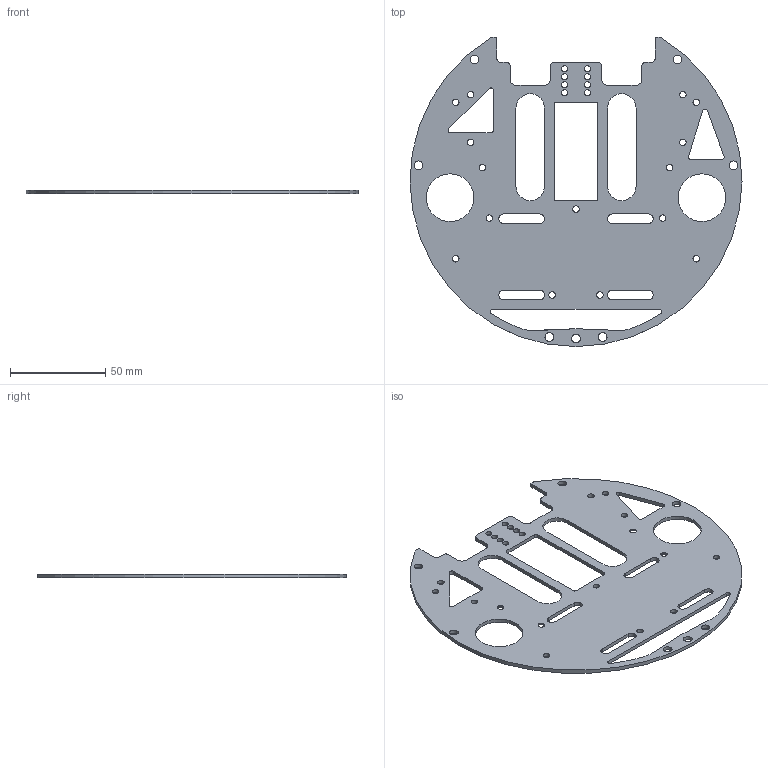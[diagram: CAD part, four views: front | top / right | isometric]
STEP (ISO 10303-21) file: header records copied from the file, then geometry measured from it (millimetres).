
FILE_DESCRIPTION(/* description */ ('carte intermédiaire'),/* implementation_level */ '2;1');
FILE_NAME(/* name */ 'D:\Users\Utilisateur\Desktop\SSL PAU\Robot\Usinage\Métal\.STEP\02_Middleplate.stp',/* time_stamp */ '2021-01-18T09:25:36+01:00',/* author */ ('Utilisateur'),/* organization */ (''),/* preprocessor_version */ 'ST-DEVELOPER v18.1',/* originating_system */ 'Autodesk Inventor 2020',/* authorisation */ '');
FILE_SCHEMA (('AUTOMOTIVE_DESIGN { 1 0 10303 214 3 1 1 }'));
Length unit declared in the file: millimetre
Products named in the file (1): 02_Middleplate
Bounding box: 173.99 x 162 x 2 mm (x, y, z)
Volume: 31041.1 mm3; surface area: 35201.5 mm2
Topology: 1 solids, 1 shells, 115 faces, 371 edges, 258 vertices
Faces by surface type: cylinder 71, plane 38, cone 4, bspline 2
Full cylindrical faces by diameter (mm): 3.2 x8, 3.4 x15, 4.5 x7, 25 x2
Entity records: 4450 total; most frequent: CARTESIAN_POINT 783, DIRECTION 777, ORIENTED_EDGE 742, EDGE_CURVE 371, AXIS2_PLACEMENT_3D 296, VERTEX_POINT 258, EDGE_LOOP 199, LINE 185
